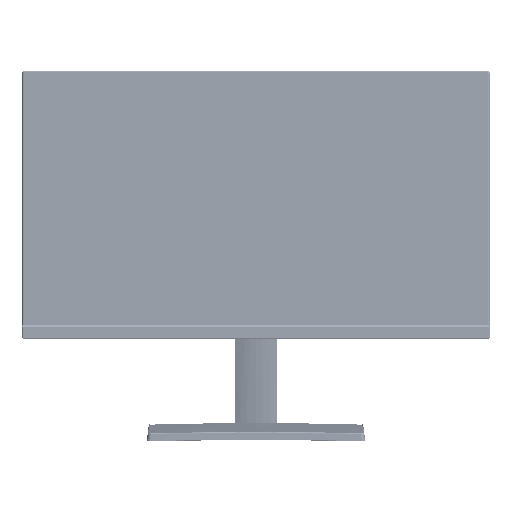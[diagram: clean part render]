
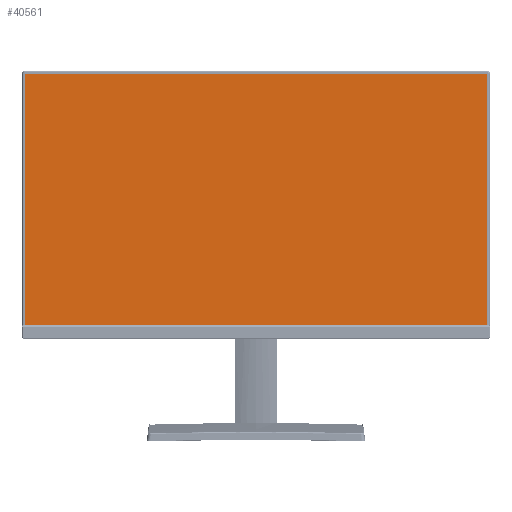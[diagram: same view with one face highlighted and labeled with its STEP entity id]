
A CAD part, top view. The second image highlights one B-rep face of the part: STEP entity #40561.
In plain terms, the highlighted planar face has unit normal (0, 0, 1).
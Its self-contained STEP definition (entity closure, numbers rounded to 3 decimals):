
#29970=PLANE('',#249890);
#40561=ADVANCED_FACE('',(#53408),#29970,.T.);
#53408=FACE_OUTER_BOUND('',#66255,.T.);
#66255=EDGE_LOOP('',(#112638,#112639,#112640,#112641,#112642,#112643));
#76007=CIRCLE('',#249888,0.6);
#76008=CIRCLE('',#249889,0.6);
#112638=ORIENTED_EDGE('',*,*,#188032,.F.);
#112639=ORIENTED_EDGE('',*,*,#188033,.T.);
#112640=ORIENTED_EDGE('',*,*,#188034,.F.);
#112641=ORIENTED_EDGE('',*,*,#188035,.F.);
#112642=ORIENTED_EDGE('',*,*,#188036,.F.);
#112643=ORIENTED_EDGE('',*,*,#188037,.T.);
#158729=VERTEX_POINT('',#385322);
#158730=VERTEX_POINT('',#385323);
#158731=VERTEX_POINT('',#385325);
#158732=VERTEX_POINT('',#385327);
#158733=VERTEX_POINT('',#385329);
#158734=VERTEX_POINT('',#385331);
#188032=EDGE_CURVE('',#158729,#158730,#212740,.T.);
#188033=EDGE_CURVE('',#158729,#158731,#76007,.T.);
#188034=EDGE_CURVE('',#158732,#158731,#212741,.T.);
#188035=EDGE_CURVE('',#158733,#158732,#212742,.T.);
#188036=EDGE_CURVE('',#158734,#158733,#212743,.T.);
#188037=EDGE_CURVE('',#158734,#158730,#76008,.T.);
#212740=LINE('',#385321,#229767);
#212741=LINE('',#385326,#229768);
#212742=LINE('',#385328,#229769);
#212743=LINE('',#385330,#229770);
#229767=VECTOR('',#282477,1.);
#229768=VECTOR('',#282480,1.);
#229769=VECTOR('',#282481,1.);
#229770=VECTOR('',#282482,1.);
#249888=AXIS2_PLACEMENT_3D('',#385324,#282478,#282479);
#249889=AXIS2_PLACEMENT_3D('',#385332,#282483,#282484);
#249890=AXIS2_PLACEMENT_3D('',#385333,#282485,#282486);
#282477=DIRECTION('',(1.,0.,0.));
#282478=DIRECTION('',(0.,0.,1.));
#282479=DIRECTION('',(1.,0.,0.));
#282480=DIRECTION('',(0.,1.,0.));
#282481=DIRECTION('',(-1.,0.,0.));
#282482=DIRECTION('',(0.,-1.,0.));
#282483=DIRECTION('',(0.,0.,1.));
#282484=DIRECTION('',(1.,0.,0.));
#282485=DIRECTION('',(0.,0.,1.));
#282486=DIRECTION('',(-1.,0.,0.));
#385321=CARTESIAN_POINT('',(0.,138.764,0.46));
#385322=CARTESIAN_POINT('',(-242.932,138.764,0.46));
#385323=CARTESIAN_POINT('',(242.932,138.764,0.46));
#385324=CARTESIAN_POINT('',(-242.932,138.164,0.46));
#385325=CARTESIAN_POINT('',(-243.532,138.164,0.46));
#385326=CARTESIAN_POINT('',(-243.532,3.697,0.46));
#385327=CARTESIAN_POINT('',(-243.532,-131.97,0.46));
#385328=CARTESIAN_POINT('',(0.,-131.97,0.46));
#385329=CARTESIAN_POINT('',(243.532,-131.97,0.46));
#385330=CARTESIAN_POINT('',(243.532,3.697,0.46));
#385331=CARTESIAN_POINT('',(243.532,138.164,0.46));
#385332=CARTESIAN_POINT('',(242.932,138.164,0.46));
#385333=CARTESIAN_POINT('',(0.,3.697,0.46));
